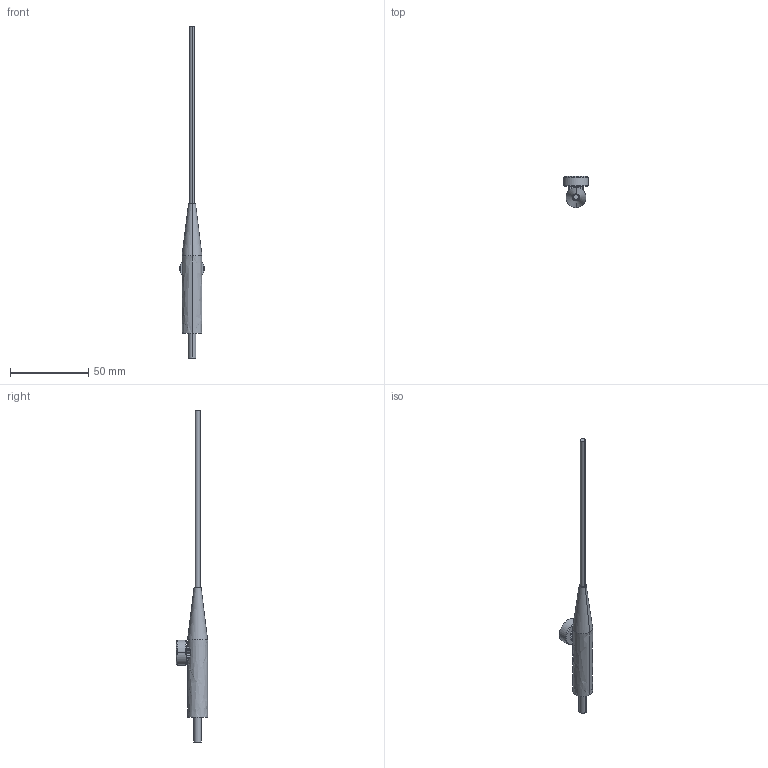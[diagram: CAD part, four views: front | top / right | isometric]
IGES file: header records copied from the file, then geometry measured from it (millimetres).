
Start section: 3D InterOp IGES (Version 21 0 3), Spatial Corp. Copyright (c) 1999-2007.
Global section: file name: CSR R5 ANTENNA - 20140529.igs; native system: Spatial Corp.; preprocessor: 3D InterOp GENERIC/IGES 3.0; author: Noname; organization: Noname; date: 20140529.164151; units: inch
Bounding box: 15.88 x 19.81 x 211.84 mm (x, y, z)
Surface area: 6516.7 mm2 (no closed solid volume)
Topology: 0 solids, 0 shells, 150 faces, 614 edges, 610 vertices
Faces by surface type: revolution 80, extrusion 70
